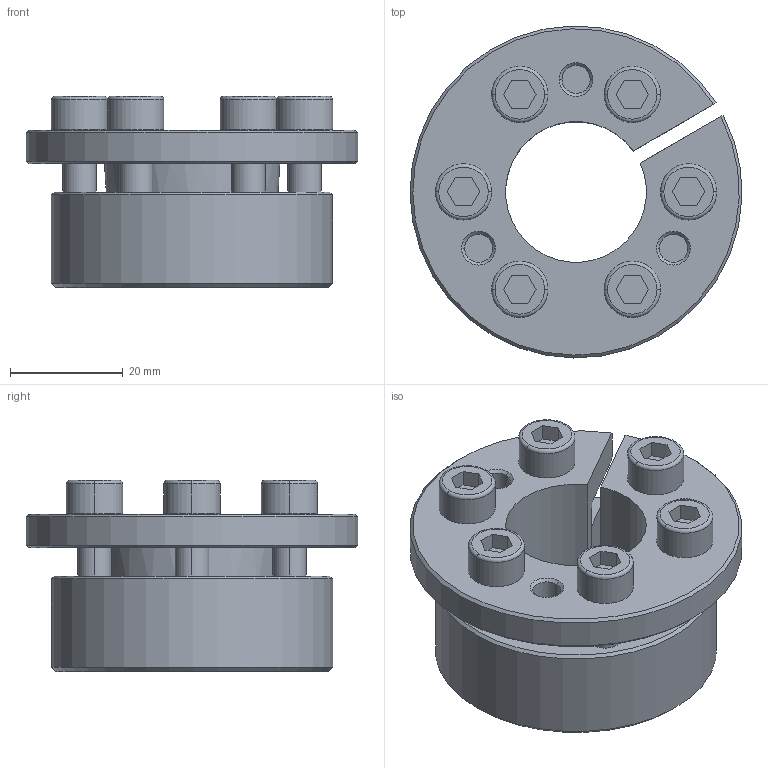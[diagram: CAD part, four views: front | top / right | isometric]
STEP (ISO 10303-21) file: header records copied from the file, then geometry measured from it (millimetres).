
FILE_DESCRIPTION((''),'2;1');
FILE_NAME('398-011-0025','2024-02-18T',('Brieden'),('Brieden'),'PRO/ENGINEER BY PARAMETRIC TECHNOLOGY CORPORATION, 2010160','PRO/ENGINEER BY PARAMETRIC TECHNOLOGY CORPORATION, 2010160','');
FILE_SCHEMA(('AUTOMOTIVE_DESIGN { 1 0 10303 214 1 1 1 1 }'));
Length unit declared in the file: millimetre
Products named in the file (1): 398-011-0025
Bounding box: 58.98 x 58.99 x 34 mm (x, y, z)
Volume: 41132 mm3; surface area: 20553.6 mm2
Topology: 2 solids, 2 shells, 168 faces, 384 edges, 244 vertices
Faces by surface type: plane 69, cylinder 57, cone 30, torus 12
Entity records: 6218 total; most frequent: DIRECTION 880, CARTESIAN_POINT 856, ORIENTED_EDGE 768, PRESENTATION_STYLE_ASSIGNMENT 403, STYLED_ITEM 386, CURVE_STYLE 384, EDGE_CURVE 384, AXIS2_PLACEMENT_3D 339
